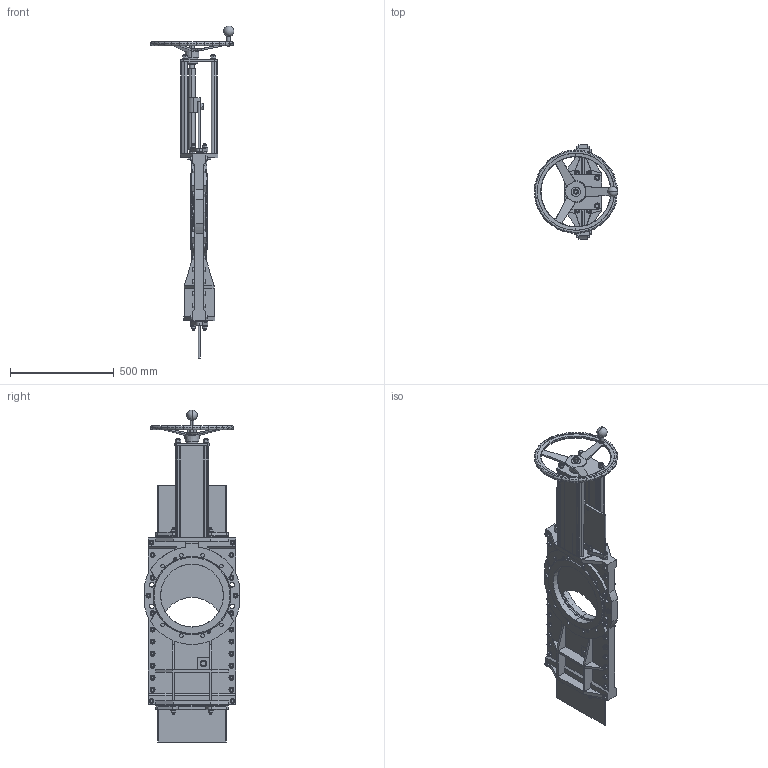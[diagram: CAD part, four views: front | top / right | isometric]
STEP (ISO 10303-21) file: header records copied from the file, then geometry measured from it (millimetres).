
FILE_DESCRIPTION(('STEP AP203'),'1');
FILE_NAME('G:/KONSTRUK/3-d block för CD/HG VALVE/HAND WHEEL/HG300-PN10-HW.stp','2012-12-03T09:44:18',(' '),(' '),'Spatial InterOp 3D',' ',' ');
FILE_SCHEMA(('CONFIG_CONTROL_DESIGN'));
Length unit declared in the file: millimetre
Products named in the file (2): 1; 2
Bounding box: 403 x 455 x 1597.99 mm (x, y, z)
Volume: 20081881.4 mm3; surface area: 3552667.7 mm2
Topology: 2 solids, 42 shells, 3287 faces, 7773 edges, 4819 vertices
Faces by surface type: plane 1151, cone 1095, cylinder 793, torus 216, bspline 30, sphere 2
Entity records: 106737 total; most frequent: CARTESIAN_POINT 30907, DIRECTION 16294, ORIENTED_EDGE 15522, EDGE_CURVE 7761, AXIS2_PLACEMENT_3D 6719, VERTEX_POINT 4819, EDGE_LOOP 3676, CIRCLE 3424
